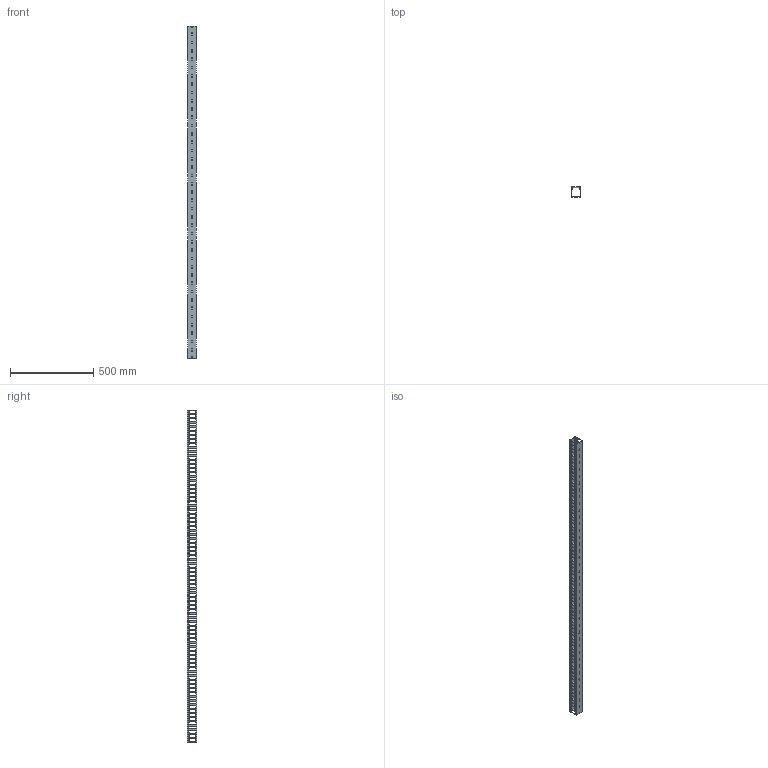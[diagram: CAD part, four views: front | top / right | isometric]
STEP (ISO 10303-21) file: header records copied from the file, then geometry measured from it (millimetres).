
FILE_DESCRIPTION (( 'STEP AP214' ), '1' );
FILE_NAME ('KD-56-20-LL.STEP', '2020-02-19T00:31:23', ( '' ), ( '' ), 'SwSTEP 2.0', 'SolidWorks 2018', '' );
FILE_SCHEMA (( 'AUTOMOTIVE_DESIGN' ));
Length unit declared in the file: millimetre
Products named in the file (3): KD-56-20-LL-body; KD-56-20-cover; KD-56-20-LL
Assembly tree (2 placements, depth 2):
  KD-56-20-LL
    KD-56-20-LL-body
    KD-56-20-cover
Bounding box: 52 x 60.17 x 2000 mm (x, y, z)
Volume: 655890.3 mm3; surface area: 837856.2 mm2
Topology: 2 solids, 2 shells, 1547 faces, 4629 edges, 3086 vertices
Faces by surface type: cylinder 797, plane 750
Entity records: 53463 total; most frequent: DIRECTION 9327, CARTESIAN_POINT 9267, ORIENTED_EDGE 9258, EDGE_CURVE 4629, AXIS2_PLACEMENT_3D 3146, VERTEX_POINT 3086, LINE 3035, VECTOR 3035
